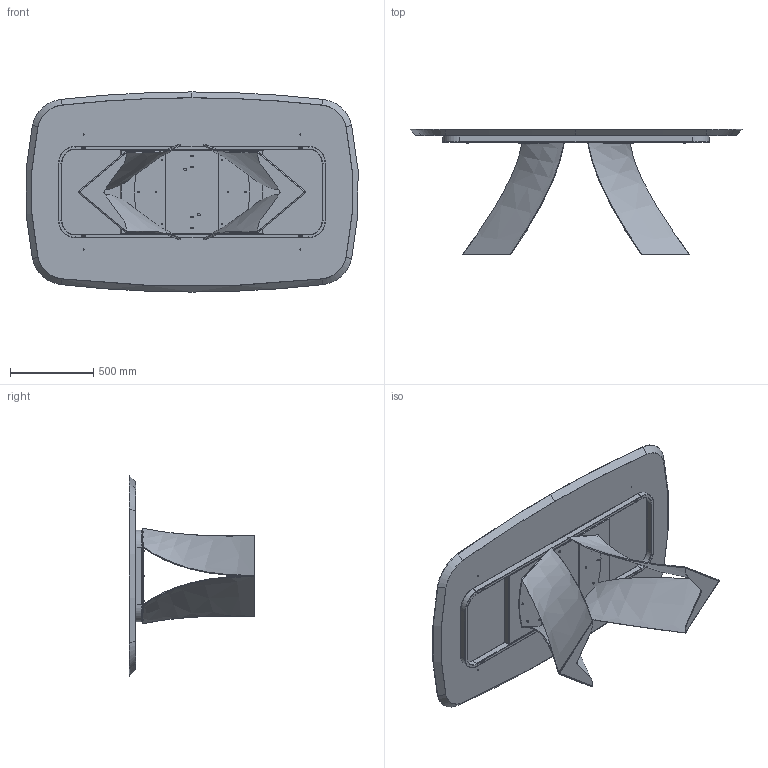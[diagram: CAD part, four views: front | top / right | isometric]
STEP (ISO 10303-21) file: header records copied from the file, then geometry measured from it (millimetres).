
FILE_DESCRIPTION (( 'STEP AP203' ), '1' );
FILE_NAME ('TW41W.STEP', '2024-08-07T12:29:58', ( '' ), ( '' ), 'SwSTEP 2.0', 'SolidWorks 2022', '' );
FILE_SCHEMA (( 'CONFIG_CONTROL_DESIGN' ));
Length unit declared in the file: millimetre
Products named in the file (9): rondella M8_8X16; M8xXXmm_M8x20mm; TTAV01_02-01-VASSOIO IRRIGIDIMENTO TELAIO UNIVERSALE; TW41W; TEALIO TEMP PER MANUALE; M8xXXmm_M8x55mm; TWS000000BAS-00-TWIST BASE GREZZA; TUBOLARE TELAIO TEMP TWIST_Default<A macchina>; W4XCMXX-00-Piani Sagomati legno_ 2000 x 1200
Assembly tree (38 placements, depth 3):
  TW41W
    W4XCMXX-00-Piani Sagomati legno_ 2000 x 1200
    TEALIO TEMP PER MANUALE
      TUBOLARE TELAIO TEMP TWIST_Default<A macchina>
      TTAV01_02-01-VASSOIO IRRIGIDIMENTO TELAIO UNIVERSALE
    TWS000000BAS-00-TWIST BASE GREZZA  x2
    M8xXXmm_M8x55mm  x4
    rondella M8_8X16  x16
    M8xXXmm_M8x20mm  x12
Bounding box: 1990.53 x 753.37 x 1200 mm (x, y, z)
Volume: 91855571.2 mm3; surface area: 8981390.8 mm2
Topology: 52 solids, 52 shells, 1299 faces, 3042 edges, 1817 vertices
Faces by surface type: plane 464, cylinder 323, torus 233, cone 213, bspline 66
Entity records: 25104 total; most frequent: CARTESIAN_POINT 9407, DIRECTION 2996, ORIENTED_EDGE 2830, EDGE_CURVE 1415, AXIS2_PLACEMENT_3D 1134, VERTEX_POINT 906, LINE 728, VECTOR 728
